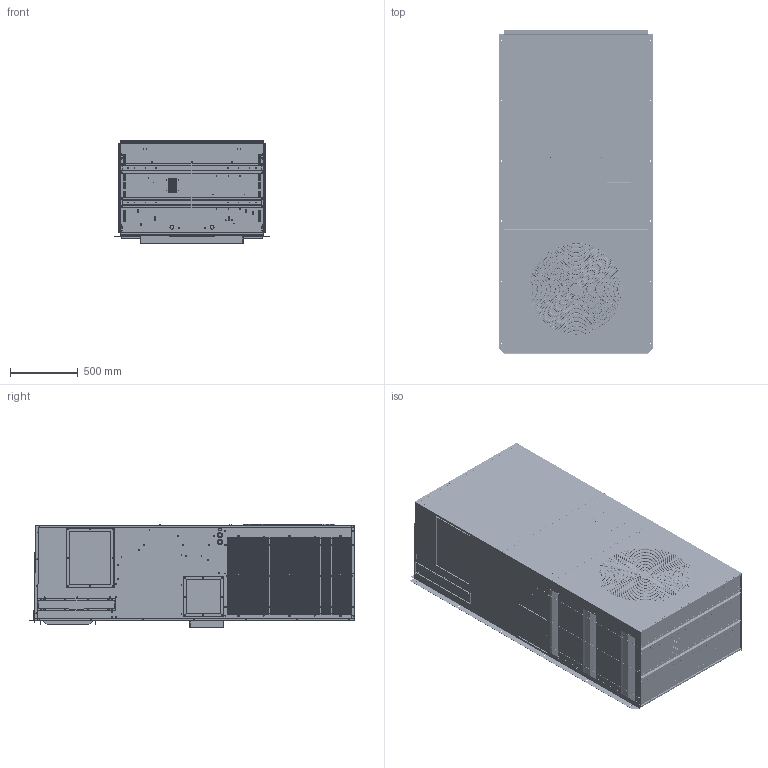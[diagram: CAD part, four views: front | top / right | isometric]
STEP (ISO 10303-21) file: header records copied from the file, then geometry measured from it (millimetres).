
FILE_DESCRIPTION (( 'STEP AP214' ), '1' );
FILE_NAME ('MGA1072A++++A++++2+++C2+++++++, SHELL.STEP', '2022-01-27T18:49:49', ( '' ), ( '' ), 'SwSTEP 2.0', 'SolidWorks 2020', '' );
FILE_SCHEMA (( 'AUTOMOTIVE_DESIGN' ));
Length unit declared in the file: inch
Products named in the file (34): SMM22012X; BLOCK OFF - DIM DWG^MGA1072-A2-C2; SMM12021X_SMM12021X; md04364; MD11846_MD11846; SMM13052X; 93185; SMM13051X_SMM13051X-IN; SMM13051X; md05743; SMM23019X; SMM23019X_SMM23031X-IN; mb04463-2; d81536; SMM22012X_SMM22012X; MC04207; MD07397; SMM16066X; SMM45034X; SMM45033X_SMM45033X; SMM23042X; MD11846; SMM13052X_SMM13052X; SMM45033X; SD08826; MGA1072A++++A++++2+++C2+++++++, SHELL; SMM12021X; SMM23042X_SMM23043X-IN; SMM45035X; md04447; SMM45035X_SMM45035X; MD04464-SW; SMM45034X_SMM45034X; MD04464
Assembly tree (39 placements, depth 3):
  MGA1072A++++A++++2+++C2+++++++, SHELL
    md04364
    md04447  x2
    mb04463-2
    MD04464-SW
      MD04464
      MC04207  x2
    md05743
    MD11846_MD11846
      MD11846
    SD08826
      MD07397
      93185
    d81536  x2
    SMM12021X_SMM12021X
      SMM12021X
    SMM13051X_SMM13051X-IN
      SMM13051X
    SMM13052X_SMM13052X
      SMM13052X
    SMM16066X
    SMM22012X_SMM22012X
      SMM22012X
    SMM23019X_SMM23031X-IN
      SMM23019X
    SMM23042X_SMM23043X-IN
      SMM23042X
    SMM45033X_SMM45033X  x2
      SMM45033X
    SMM45034X_SMM45034X  x2
      SMM45034X
    SMM45035X_SMM45035X  x2
      SMM45035X
    BLOCK OFF - DIM DWG^MGA1072-A2-C2
Bounding box: 1140.46 x 2396.18 x 761.58 mm (x, y, z)
Volume: 1678219797.8 mm3; surface area: 30285064.7 mm2
Topology: 214 solids, 214 shells, 4497 faces, 11786 edges, 7403 vertices
Faces by surface type: cylinder 2384, plane 1647, torus 386, bspline 66, sphere 14
Entity records: 190948 total; most frequent: CARTESIAN_POINT 87364, DIRECTION 21703, ORIENTED_EDGE 20666, EDGE_CURVE 10333, AXIS2_PLACEMENT_3D 8528, VERTEX_POINT 6502, EDGE_LOOP 5315, CIRCLE 4763
